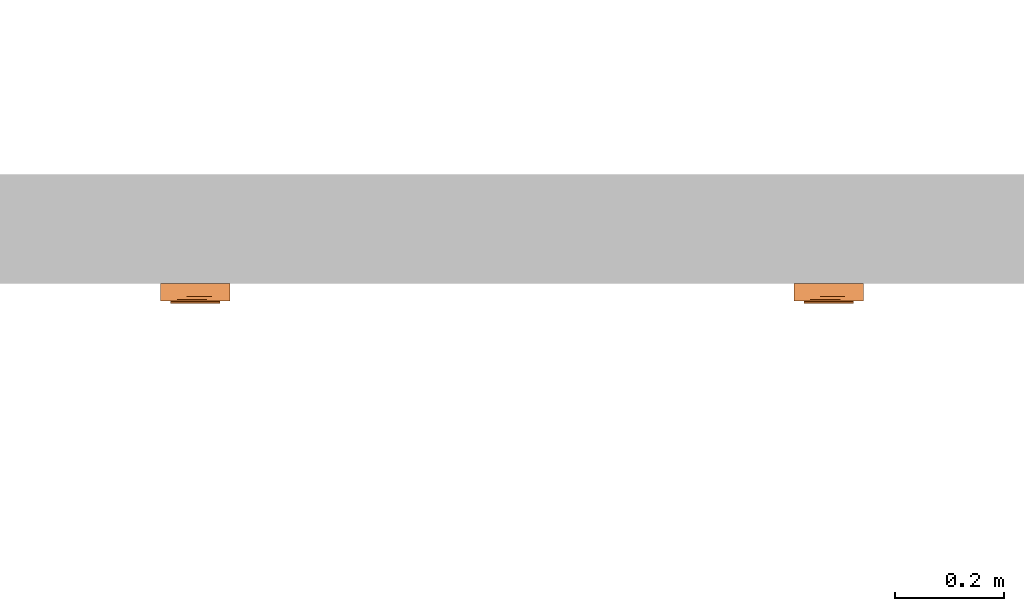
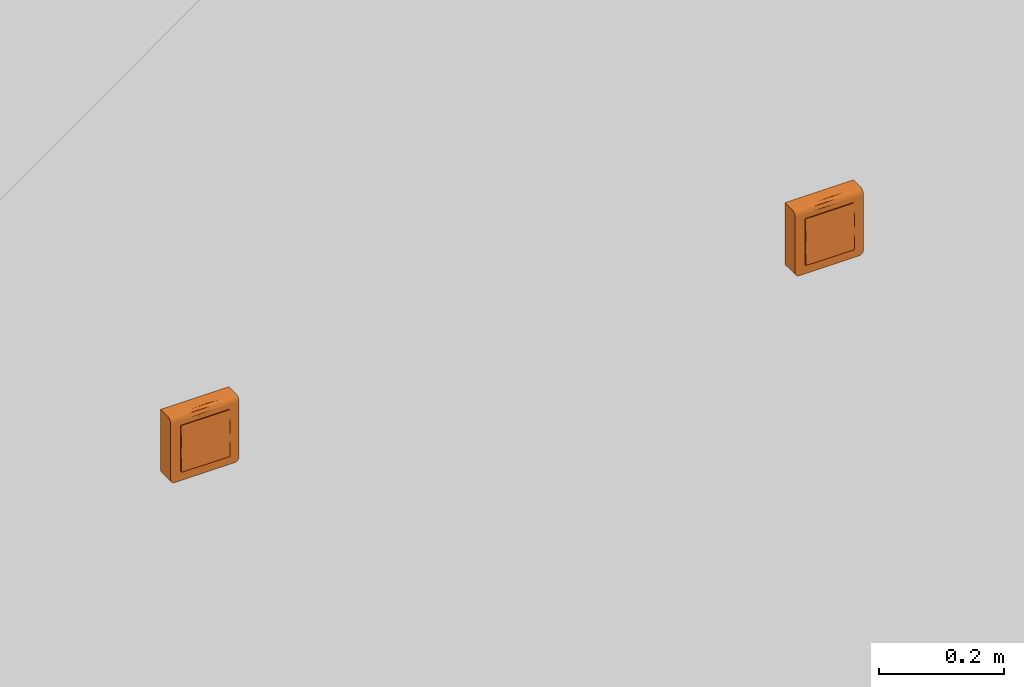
# One storey, part 168 of 197: 2 proxies.
"""IFC2X3 building model written with IfcOpenShell, lengths in metres."""

from ifc_helpers import new_model, entity, si_unit, converted_unit, direction, frame, origin, place, context, subcontext, project, spatial, faceted_brep, source, transform, mapped, material, material_list, type_object, type_shapes, element, save


model = new_model("IFC2X3")

# Units and contexts
model_context = context("Model", 3, precision=1e-05, world=origin(), true_north=direction((6.123031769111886e-17, 1.0)))
body_context = subcontext(model_context, "Body", "Model", "MODEL_VIEW")
ifc_project = project(units=[si_unit("LENGTHUNIT", "METRE"), converted_unit("PLANEANGLEUNIT", "DEGREE", entity("IfcPlaneAngleMeasure", 0.017453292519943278), si_unit("PLANEANGLEUNIT", "RADIAN"), dimensions=[0, 0, 0, 0, 0, 0, 0]), si_unit("AREAUNIT", "SQUARE_METRE")], contexts=[model_context])

# Site, building, storey
site_placement = place(None, origin())
site = spatial("IfcSite", under=ifc_project, at=site_placement, Name="Default", CompositionType="ELEMENT")
building_placement = place(site_placement, origin())
building = spatial("IfcBuilding", under=site, at=building_placement, CompositionType="ELEMENT")
storey_placement = place(building_placement, origin())
storey = spatial("IfcBuildingStorey", under=building, at=storey_placement, Name="Niveau 0", CompositionType="ELEMENT", Elevation=0.0)

# Proxies
ifc_material_1 = material(Name="BETCE-CADRE-BLANC")
ifc_material_2 = material(Name="BETCE-DOIGT-BLANC")
ifc_material_3 = material(Name="BETCE-ENJOLIVEUR-BLANC")
ifc_material_list = material_list([ifc_material_1, ifc_material_2, ifc_material_3])
building_element_proxy_type_1 = type_object("IfcBuildingElementProxyType", Name="Tableau commande 2x4 modules saillie:6 BP + 2 VV", PredefinedType="NOTDEFINED", material=ifc_material_list)
shared_shape_1 = source(origin(), body_context, "Body", "Brep", [
    faceted_brep([(0.06349999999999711, -0.022999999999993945, 0.0635), (-0.06350000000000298, -0.022999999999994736, 0.0635), (-0.06350000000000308, -0.022999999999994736, -0.055499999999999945), (-0.06322740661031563, -0.022999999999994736, -0.05757055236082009), (-0.06242820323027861, -0.02299999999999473, -0.059499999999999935), (-0.06115685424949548, -0.022999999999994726, -0.06115685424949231), (-0.05950000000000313, -0.022999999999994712, -0.06242820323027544), (-0.05757055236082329, -0.0229999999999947, -0.06322740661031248), (-0.05550000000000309, -0.022999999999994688, -0.06350000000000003), (0.055499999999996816, -0.022999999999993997, -0.0635000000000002), (0.057570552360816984, -0.022999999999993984, -0.06322740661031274), (0.05949999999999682, -0.022999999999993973, -0.062428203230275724), (0.06115685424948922, -0.022999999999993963, -0.061156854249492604), (0.062428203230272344, -0.022999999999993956, -0.05950000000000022), (0.0632274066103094, -0.022999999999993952, -0.0575705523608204), (0.06349999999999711, -0.022999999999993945, -0.05550000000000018), (-0.05550000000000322, 0.0, -0.06349999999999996), (-0.05757055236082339, 0.0, -0.06322740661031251), (-0.05950000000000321, 0.0, -0.062428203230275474), (-0.06115685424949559, 0.0, -0.06115685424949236), (-0.06242820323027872, 0.0, -0.05949999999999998), (-0.06322740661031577, 0.0, -0.05757055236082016), (-0.06350000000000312, 0.0, -0.055499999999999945), (-0.06350000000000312, 0.0, 0.0635), (0.06349999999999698, 0.0, 0.0635), (0.06349999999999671, 0.0, -0.05550000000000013), (0.06322740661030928, 0.0, -0.0575705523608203), (0.06242820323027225, 0.0, -0.05950000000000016), (0.06115685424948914, 0.0, -0.061156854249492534), (0.059499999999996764, 0.0, -0.062428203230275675), (0.05757055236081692, 0.0, -0.06322740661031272), (0.055499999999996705, 0.0, -0.0635)], [[[0, 1, 2, 3, 4, 5, 6, 7, 8, 9, 10, 11, 12, 13, 14, 15]], [[16, 17, 18, 19, 20, 21, 22, 23, 24, 25, 26, 27, 28, 29, 30, 31]], [[2, 1, 23, 22]], [[9, 8, 16, 31]], [[0, 15, 25, 24]], [[1, 0, 24, 23]], [[25, 15, 14, 26]], [[26, 14, 13, 27]], [[27, 13, 12, 28]], [[29, 11, 10, 30]], [[30, 10, 9, 31]], [[28, 12, 11, 29]], [[17, 16, 8, 7]], [[18, 17, 7, 6]], [[19, 18, 6, 5]], [[20, 19, 5, 4]], [[21, 20, 4, 3]], [[22, 21, 3, 2]]]),
    faceted_brep([(0.022499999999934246, -0.022999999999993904, -0.045000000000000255), (0.022499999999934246, -0.022999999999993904, 0.0), (0.04499999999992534, -0.022999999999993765, 0.0), (0.04499999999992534, -0.022999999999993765, -0.045000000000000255), (0.022499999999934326, -0.03574999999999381, -0.045000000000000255), (0.02249999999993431, -0.033499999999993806, 0.0), (0.044999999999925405, -0.03349999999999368, 0.0), (0.04499999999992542, -0.03574999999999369, -0.045000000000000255)], [[[0, 1, 2, 3]], [[1, 0, 4, 5]], [[2, 1, 5, 6]], [[3, 2, 6, 7]], [[0, 3, 7, 4]], [[5, 4, 7, 6]]]),
    faceted_brep([(0.0, -0.022999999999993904, -0.04500000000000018), (0.0, -0.022999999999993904, 0.0), (0.02249999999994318, -0.022999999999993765, 0.0), (0.02249999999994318, -0.022999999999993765, -0.04500000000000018), (0.0, -0.03574999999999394, -0.04500000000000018), (0.0, -0.03349999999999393, 0.0), (0.022499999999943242, -0.033499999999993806, 0.0), (0.02249999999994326, -0.03574999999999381, -0.04500000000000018)], [[[0, 1, 2, 3]], [[1, 0, 4, 5]], [[2, 1, 5, 6]], [[3, 2, 6, 7]], [[0, 3, 7, 4]], [[5, 4, 7, 6]]]),
    faceted_brep([(-0.02250000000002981, -0.022999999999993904, -0.0450000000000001), (-0.02250000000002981, -0.022999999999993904, 0.0), (0.0, -0.022999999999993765, 0.0), (0.0, -0.022999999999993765, -0.0450000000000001), (-0.02250000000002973, -0.03574999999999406, -0.0450000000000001), (-0.022500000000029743, -0.03349999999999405, 0.0), (0.0, -0.033499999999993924, 0.0), (0.0, -0.03574999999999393, -0.0450000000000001)], [[[0, 1, 2, 3]], [[1, 0, 4, 5]], [[2, 1, 5, 6]], [[3, 2, 6, 7]], [[0, 3, 7, 4]], [[5, 4, 7, 6]]]),
    faceted_brep([(-0.04500000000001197, -0.022999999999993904, -0.045000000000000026), (-0.04500000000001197, -0.022999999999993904, 0.0), (-0.022500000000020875, -0.022999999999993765, 0.0), (-0.022500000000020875, -0.022999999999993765, -0.045000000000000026), (-0.04500000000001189, -0.03574999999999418, -0.045000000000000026), (-0.0450000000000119, -0.03349999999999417, 0.0), (-0.02250000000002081, -0.03349999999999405, 0.0), (-0.022500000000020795, -0.03574999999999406, -0.045000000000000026)], [[[0, 1, 2, 3]], [[1, 0, 4, 5]], [[2, 1, 5, 6]], [[3, 2, 6, 7]], [[0, 3, 7, 4]], [[5, 4, 7, 6]]]),
    faceted_brep([(0.02249999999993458, -0.03349999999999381, 0.04499999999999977), (0.022499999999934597, -0.03574999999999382, 0.0), (0.04499999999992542, -0.0357499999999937, 0.0), (0.044999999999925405, -0.03349999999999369, 0.04499999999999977), (0.022499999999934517, -0.022999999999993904, 0.0), (0.022499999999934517, -0.022999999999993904, 0.04499999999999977), (0.04499999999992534, -0.022999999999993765, 0.04499999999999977), (0.04499999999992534, -0.022999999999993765, 0.0)], [[[0, 1, 2, 3]], [[4, 5, 6, 7]], [[5, 4, 1, 0]], [[6, 5, 0, 3]], [[7, 6, 3, 2]], [[4, 7, 2, 1]]]),
    faceted_brep([(0.0, -0.03349999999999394, 0.044999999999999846), (0.0, -0.035749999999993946, 0.0), (0.02249999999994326, -0.03574999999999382, 0.0), (0.022499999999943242, -0.03349999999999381, 0.044999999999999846), (0.0, -0.022999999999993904, 0.0), (0.0, -0.022999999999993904, 0.044999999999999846), (0.02249999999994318, -0.022999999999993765, 0.04499999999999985), (0.02249999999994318, -0.022999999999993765, 0.0)], [[[0, 1, 2, 3]], [[4, 5, 6, 7]], [[5, 4, 1, 0]], [[6, 5, 0, 3]], [[7, 6, 3, 2]], [[4, 7, 2, 1]]]),
    faceted_brep([(-0.022500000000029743, -0.03349999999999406, 0.04499999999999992), (-0.02250000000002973, -0.03574999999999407, 0.0), (0.0, -0.03574999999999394, 0.0), (0.0, -0.03349999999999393, 0.04499999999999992), (-0.02250000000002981, -0.022999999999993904, 0.0), (-0.02250000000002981, -0.022999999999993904, 0.04499999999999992), (0.0, -0.022999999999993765, 0.04499999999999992), (0.0, -0.022999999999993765, 0.0)], [[[0, 1, 2, 3]], [[4, 5, 6, 7]], [[5, 4, 1, 0]], [[6, 5, 0, 3]], [[7, 6, 3, 2]], [[4, 7, 2, 1]]]),
    faceted_brep([(-0.04500000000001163, -0.03349999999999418, 0.045), (-0.045000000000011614, -0.03574999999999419, 0.0), (-0.022500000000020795, -0.035749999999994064, 0.0), (-0.02250000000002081, -0.03349999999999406, 0.045), (-0.0450000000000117, -0.022999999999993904, 0.0), (-0.0450000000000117, -0.022999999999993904, 0.045), (-0.022500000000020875, -0.022999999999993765, 0.045000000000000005), (-0.022500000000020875, -0.022999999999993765, 0.0)], [[[0, 1, 2, 3]], [[4, 5, 6, 7]], [[5, 4, 1, 0]], [[6, 5, 0, 3]], [[7, 6, 3, 2]], [[4, 7, 2, 1]]]),
    faceted_brep([(0.06349999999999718, -0.03199999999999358, -0.055500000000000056), (0.063499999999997, -0.03199999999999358, 0.05450000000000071), (0.04499999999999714, -0.03199999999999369, -0.045000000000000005), (0.05549999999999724, -0.03199999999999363, -0.06350000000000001), (0.057570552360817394, -0.03199999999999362, -0.06322740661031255), (0.06322740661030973, -0.03199999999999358, -0.05757055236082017), (0.04499999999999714, -0.03199999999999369, 0.045), (-0.04500000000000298, -0.031999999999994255, 0.045000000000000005), (-0.011124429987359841, -0.03199999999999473, 0.054500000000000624), (-0.06350000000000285, -0.03199999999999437, 0.05450000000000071), (-0.04500000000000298, -0.031999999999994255, -0.045000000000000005), (-0.06350000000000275, -0.03199999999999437, -0.05550000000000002), (-0.05550000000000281, -0.03199999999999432, -0.06350000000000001), (-0.05757055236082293, -0.03199999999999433, -0.06322740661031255), (-0.06322740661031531, -0.031999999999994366, -0.05757055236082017), (-0.05950000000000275, -0.031999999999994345, -0.062428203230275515), (-0.06242820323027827, -0.03199999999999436, -0.05950000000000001), (-0.06115685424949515, -0.03199999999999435, -0.06115685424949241), (0.05949999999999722, -0.0319999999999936, -0.062428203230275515), (0.062428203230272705, -0.03199999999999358, -0.05949999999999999), (0.06115685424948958, -0.031999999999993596, -0.061156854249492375), (-0.06350000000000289, -0.02299999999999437, -0.05550000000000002), (-0.06350000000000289, -0.02299999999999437, 0.06350000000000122), (-0.04500000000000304, -0.02299999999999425, 0.045000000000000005), (-0.04500000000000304, -0.02299999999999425, -0.045000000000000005), (-0.05550000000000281, -0.02299999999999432, -0.06350000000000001), (-0.06322740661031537, -0.022999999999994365, -0.05757055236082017), (0.04499999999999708, -0.022999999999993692, 0.045000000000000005), (0.011124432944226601, -0.022999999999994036, 0.06350000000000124), (0.06349999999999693, -0.022999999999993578, 0.0635), (0.06349999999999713, -0.022999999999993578, -0.05550000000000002), (0.04499999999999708, -0.022999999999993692, -0.045000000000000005), (0.05549999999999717, -0.02299999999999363, -0.06350000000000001), (0.06322740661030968, -0.022999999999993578, -0.05757055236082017), (0.05757055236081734, -0.022999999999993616, -0.06322740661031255), (0.06242820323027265, -0.022999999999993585, -0.05949999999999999), (0.05949999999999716, -0.022999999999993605, -0.062428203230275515), (0.06115685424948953, -0.02299999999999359, -0.061156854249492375), (-0.05757055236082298, -0.02299999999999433, -0.06322740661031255), (-0.062428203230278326, -0.022999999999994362, -0.05950000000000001), (-0.05950000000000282, -0.022999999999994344, -0.062428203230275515), (-0.0611568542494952, -0.02299999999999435, -0.06115685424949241), (0.06349999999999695, -0.025329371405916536, 0.06319333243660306), (0.06349999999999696, -0.02749999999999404, 0.06229422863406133), (0.06349999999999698, -0.029363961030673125, 0.060863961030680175), (0.06349999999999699, -0.03079422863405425, 0.05900000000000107), (0.06349999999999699, -0.03169333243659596, 0.05682937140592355), (-0.06350000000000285, -0.03169333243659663, 0.0568293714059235), (-0.06350000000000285, -0.030794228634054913, 0.059000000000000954), (-0.06350000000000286, -0.029363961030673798, 0.06086396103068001), (-0.06350000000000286, -0.027499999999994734, 0.062294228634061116), (-0.06350000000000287, -0.025329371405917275, 0.06319333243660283), (-0.010857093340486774, -0.029120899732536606, 0.06109807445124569)], [[[0, 1, 2]], [[3, 0, 2]], [[0, 3, 4]], [[5, 0, 4]], [[2, 1, 6]], [[1, 7, 6]], [[7, 1, 8]], [[7, 8, 9]], [[10, 7, 9]], [[11, 10, 9]], [[12, 10, 11]], [[12, 11, 13]], [[13, 11, 14]], [[15, 13, 14]], [[16, 15, 14]], [[15, 16, 17]], [[10, 12, 3]], [[2, 10, 3]], [[5, 4, 18]], [[5, 18, 19]], [[20, 19, 18]], [[21, 22, 23]], [[24, 21, 23]], [[25, 21, 24]], [[26, 21, 25]], [[22, 27, 23]], [[27, 22, 28]], [[27, 28, 29]], [[30, 27, 29]], [[31, 27, 30]], [[32, 31, 30]], [[32, 30, 33]], [[32, 33, 34]], [[33, 35, 34]], [[35, 36, 34]], [[36, 35, 37]], [[31, 32, 25]], [[26, 25, 38]], [[24, 31, 25]], [[39, 26, 38]], [[39, 38, 40]], [[41, 39, 40]], [[1, 0, 30, 29, 42, 43, 44, 45, 46]], [[33, 30, 0, 5]], [[35, 33, 5, 19]], [[37, 35, 19, 20]], [[36, 37, 20, 18]], [[34, 36, 18, 4]], [[32, 34, 4, 3]], [[25, 32, 3, 12]], [[38, 25, 12, 13]], [[40, 38, 13, 15]], [[41, 40, 15, 17]], [[39, 41, 17, 16]], [[26, 39, 16, 14]], [[21, 26, 14, 11]], [[22, 21, 11, 9, 47, 48, 49, 50, 51]], [[24, 23, 7, 10]], [[31, 24, 10, 2]], [[27, 31, 2, 6]], [[23, 27, 6, 7]], [[52, 8, 45]], [[47, 9, 8]], [[1, 46, 8]], [[44, 52, 45]], [[46, 45, 8]], [[50, 52, 51]], [[48, 47, 8]], [[28, 52, 43]], [[48, 52, 49]], [[42, 29, 28]], [[28, 22, 51]], [[48, 8, 52]], [[28, 43, 42]], [[44, 43, 52]], [[52, 50, 49]], [[52, 28, 51]]]),
])
type_shapes(building_element_proxy_type_1, [shared_shape_1])
proxy_1_placement = place(storey_placement, frame((-348.70777966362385, 116.01635778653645, 1.1)))
element("IfcBuildingElementProxy", 1, at=proxy_1_placement, inside=storey, type_object=building_element_proxy_type_1, material=ifc_material_list, Name="Tableau commande 2x4 modules saillie:6 BP + 2 VV", ObjectType="Tableau commande 2x4 modules saillie:6 BP + 2 VV", context=body_context, shape_type="MappedRepresentation", body=[
    mapped(shared_shape_1, transform((0.0, 0.0, 0.0), scale=1.0)),
])
building_element_proxy_type_2 = type_object("IfcBuildingElementProxyType", Name="Tableau commande 2x4 modules saillie:7 BP + 1 VV", PredefinedType="NOTDEFINED", material=ifc_material_list)
shared_shape_2 = source(origin(), body_context, "Body", "Brep", [
    faceted_brep([(0.06349999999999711, -0.022999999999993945, 0.0635), (-0.06350000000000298, -0.022999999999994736, 0.0635), (-0.06350000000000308, -0.022999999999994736, -0.055499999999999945), (-0.06322740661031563, -0.022999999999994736, -0.05757055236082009), (-0.06242820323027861, -0.02299999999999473, -0.059499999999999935), (-0.06115685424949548, -0.022999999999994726, -0.06115685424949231), (-0.05950000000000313, -0.022999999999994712, -0.06242820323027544), (-0.05757055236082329, -0.0229999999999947, -0.06322740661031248), (-0.05550000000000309, -0.022999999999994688, -0.06350000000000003), (0.055499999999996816, -0.022999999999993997, -0.0635000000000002), (0.057570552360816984, -0.022999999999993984, -0.06322740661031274), (0.05949999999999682, -0.022999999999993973, -0.062428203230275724), (0.06115685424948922, -0.022999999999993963, -0.061156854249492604), (0.062428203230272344, -0.022999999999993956, -0.05950000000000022), (0.0632274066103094, -0.022999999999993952, -0.0575705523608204), (0.06349999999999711, -0.022999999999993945, -0.05550000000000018), (-0.05550000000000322, 0.0, -0.06349999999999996), (-0.05757055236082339, 0.0, -0.06322740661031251), (-0.05950000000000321, 0.0, -0.062428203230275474), (-0.06115685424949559, 0.0, -0.06115685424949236), (-0.06242820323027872, 0.0, -0.05949999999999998), (-0.06322740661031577, 0.0, -0.05757055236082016), (-0.06350000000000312, 0.0, -0.055499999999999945), (-0.06350000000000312, 0.0, 0.0635), (0.06349999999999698, 0.0, 0.0635), (0.06349999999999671, 0.0, -0.05550000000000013), (0.06322740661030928, 0.0, -0.0575705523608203), (0.06242820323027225, 0.0, -0.05950000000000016), (0.06115685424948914, 0.0, -0.061156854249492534), (0.059499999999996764, 0.0, -0.062428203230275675), (0.05757055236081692, 0.0, -0.06322740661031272), (0.055499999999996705, 0.0, -0.0635)], [[[0, 1, 2, 3, 4, 5, 6, 7, 8, 9, 10, 11, 12, 13, 14, 15]], [[16, 17, 18, 19, 20, 21, 22, 23, 24, 25, 26, 27, 28, 29, 30, 31]], [[2, 1, 23, 22]], [[9, 8, 16, 31]], [[0, 15, 25, 24]], [[1, 0, 24, 23]], [[25, 15, 14, 26]], [[26, 14, 13, 27]], [[27, 13, 12, 28]], [[29, 11, 10, 30]], [[30, 10, 9, 31]], [[28, 12, 11, 29]], [[17, 16, 8, 7]], [[18, 17, 7, 6]], [[19, 18, 6, 5]], [[20, 19, 5, 4]], [[21, 20, 4, 3]], [[22, 21, 3, 2]]]),
    faceted_brep([(0.022499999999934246, -0.022999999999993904, -0.045000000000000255), (0.022499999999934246, -0.022999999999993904, 0.0), (0.04499999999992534, -0.022999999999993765, 0.0), (0.04499999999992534, -0.022999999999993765, -0.045000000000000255), (0.022499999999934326, -0.03574999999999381, -0.045000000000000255), (0.02249999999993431, -0.033499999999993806, 0.0), (0.044999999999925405, -0.03349999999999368, 0.0), (0.04499999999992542, -0.03574999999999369, -0.045000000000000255)], [[[0, 1, 2, 3]], [[1, 0, 4, 5]], [[2, 1, 5, 6]], [[3, 2, 6, 7]], [[0, 3, 7, 4]], [[5, 4, 7, 6]]]),
    faceted_brep([(0.0, -0.022999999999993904, -0.04500000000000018), (0.0, -0.022999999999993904, 0.0), (0.02249999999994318, -0.022999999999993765, 0.0), (0.02249999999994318, -0.022999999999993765, -0.04500000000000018), (0.0, -0.03574999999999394, -0.04500000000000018), (0.0, -0.03349999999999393, 0.0), (0.022499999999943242, -0.033499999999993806, 0.0), (0.02249999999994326, -0.03574999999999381, -0.04500000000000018)], [[[0, 1, 2, 3]], [[1, 0, 4, 5]], [[2, 1, 5, 6]], [[3, 2, 6, 7]], [[0, 3, 7, 4]], [[5, 4, 7, 6]]]),
    faceted_brep([(-0.02250000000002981, -0.022999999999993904, -0.0450000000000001), (-0.02250000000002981, -0.022999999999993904, 0.0), (0.0, -0.022999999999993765, 0.0), (0.0, -0.022999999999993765, -0.0450000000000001), (-0.02250000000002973, -0.03574999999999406, -0.0450000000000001), (-0.022500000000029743, -0.03349999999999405, 0.0), (0.0, -0.033499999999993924, 0.0), (0.0, -0.03574999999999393, -0.0450000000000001)], [[[0, 1, 2, 3]], [[1, 0, 4, 5]], [[2, 1, 5, 6]], [[3, 2, 6, 7]], [[0, 3, 7, 4]], [[5, 4, 7, 6]]]),
    faceted_brep([(-0.04500000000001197, -0.022999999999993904, -0.045000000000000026), (-0.04500000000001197, -0.022999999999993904, 0.0), (-0.022500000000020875, -0.022999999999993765, 0.0), (-0.022500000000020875, -0.022999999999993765, -0.045000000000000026), (-0.04500000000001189, -0.03574999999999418, -0.045000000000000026), (-0.0450000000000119, -0.03349999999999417, 0.0), (-0.02250000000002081, -0.03349999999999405, 0.0), (-0.022500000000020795, -0.03574999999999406, -0.045000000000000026)], [[[0, 1, 2, 3]], [[1, 0, 4, 5]], [[2, 1, 5, 6]], [[3, 2, 6, 7]], [[0, 3, 7, 4]], [[5, 4, 7, 6]]]),
    faceted_brep([(0.02249999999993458, -0.03349999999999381, 0.04499999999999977), (0.022499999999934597, -0.03574999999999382, 0.0), (0.04499999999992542, -0.0357499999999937, 0.0), (0.044999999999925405, -0.03349999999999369, 0.04499999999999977), (0.022499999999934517, -0.022999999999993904, 0.0), (0.022499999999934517, -0.022999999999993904, 0.04499999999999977), (0.04499999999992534, -0.022999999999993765, 0.04499999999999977), (0.04499999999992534, -0.022999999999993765, 0.0)], [[[0, 1, 2, 3]], [[4, 5, 6, 7]], [[5, 4, 1, 0]], [[6, 5, 0, 3]], [[7, 6, 3, 2]], [[4, 7, 2, 1]]]),
    faceted_brep([(0.0, -0.03349999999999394, 0.044999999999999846), (0.0, -0.035749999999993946, 0.0), (0.02249999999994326, -0.03574999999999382, 0.0), (0.022499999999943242, -0.03349999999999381, 0.044999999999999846), (0.0, -0.022999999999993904, 0.0), (0.0, -0.022999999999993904, 0.044999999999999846), (0.02249999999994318, -0.022999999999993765, 0.04499999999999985), (0.02249999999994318, -0.022999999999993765, 0.0)], [[[0, 1, 2, 3]], [[4, 5, 6, 7]], [[5, 4, 1, 0]], [[6, 5, 0, 3]], [[7, 6, 3, 2]], [[4, 7, 2, 1]]]),
    faceted_brep([(-0.022500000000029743, -0.03349999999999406, 0.04499999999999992), (-0.02250000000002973, -0.03574999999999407, 0.0), (0.0, -0.03574999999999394, 0.0), (0.0, -0.03349999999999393, 0.04499999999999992), (-0.02250000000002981, -0.022999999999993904, 0.0), (-0.02250000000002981, -0.022999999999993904, 0.04499999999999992), (0.0, -0.022999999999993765, 0.04499999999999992), (0.0, -0.022999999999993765, 0.0)], [[[0, 1, 2, 3]], [[4, 5, 6, 7]], [[5, 4, 1, 0]], [[6, 5, 0, 3]], [[7, 6, 3, 2]], [[4, 7, 2, 1]]]),
    faceted_brep([(-0.04500000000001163, -0.03349999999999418, 0.045), (-0.045000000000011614, -0.03574999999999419, 0.0), (-0.022500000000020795, -0.035749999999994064, 0.0), (-0.02250000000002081, -0.03349999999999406, 0.045), (-0.0450000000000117, -0.022999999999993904, 0.0), (-0.0450000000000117, -0.022999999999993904, 0.045), (-0.022500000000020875, -0.022999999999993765, 0.045000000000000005), (-0.022500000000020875, -0.022999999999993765, 0.0)], [[[0, 1, 2, 3]], [[4, 5, 6, 7]], [[5, 4, 1, 0]], [[6, 5, 0, 3]], [[7, 6, 3, 2]], [[4, 7, 2, 1]]]),
    faceted_brep([(0.06349999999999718, -0.03199999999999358, -0.055500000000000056), (0.063499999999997, -0.03199999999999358, 0.05450000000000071), (0.04499999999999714, -0.03199999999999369, -0.045000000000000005), (0.05549999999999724, -0.03199999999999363, -0.06350000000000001), (0.057570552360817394, -0.03199999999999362, -0.06322740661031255), (0.06322740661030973, -0.03199999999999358, -0.05757055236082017), (0.04499999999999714, -0.03199999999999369, 0.045), (-0.04500000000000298, -0.031999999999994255, 0.045000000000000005), (-0.011124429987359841, -0.03199999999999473, 0.054500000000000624), (-0.06350000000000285, -0.03199999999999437, 0.05450000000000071), (-0.04500000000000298, -0.031999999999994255, -0.045000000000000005), (-0.06350000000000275, -0.03199999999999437, -0.05550000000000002), (-0.05550000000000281, -0.03199999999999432, -0.06350000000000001), (-0.05757055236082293, -0.03199999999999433, -0.06322740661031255), (-0.06322740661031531, -0.031999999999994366, -0.05757055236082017), (-0.05950000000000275, -0.031999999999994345, -0.062428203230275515), (-0.06242820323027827, -0.03199999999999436, -0.05950000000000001), (-0.06115685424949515, -0.03199999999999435, -0.06115685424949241), (0.05949999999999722, -0.0319999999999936, -0.062428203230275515), (0.062428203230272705, -0.03199999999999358, -0.05949999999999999), (0.06115685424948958, -0.031999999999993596, -0.061156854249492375), (-0.06350000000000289, -0.02299999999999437, -0.05550000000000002), (-0.06350000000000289, -0.02299999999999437, 0.06350000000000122), (-0.04500000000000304, -0.02299999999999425, 0.045000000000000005), (-0.04500000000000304, -0.02299999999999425, -0.045000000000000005), (-0.05550000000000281, -0.02299999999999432, -0.06350000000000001), (-0.06322740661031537, -0.022999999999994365, -0.05757055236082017), (0.04499999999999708, -0.022999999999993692, 0.045000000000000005), (0.011124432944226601, -0.022999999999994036, 0.06350000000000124), (0.06349999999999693, -0.022999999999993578, 0.0635), (0.06349999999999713, -0.022999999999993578, -0.05550000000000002), (0.04499999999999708, -0.022999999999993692, -0.045000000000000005), (0.05549999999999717, -0.02299999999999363, -0.06350000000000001), (0.06322740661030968, -0.022999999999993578, -0.05757055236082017), (0.05757055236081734, -0.022999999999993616, -0.06322740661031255), (0.06242820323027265, -0.022999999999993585, -0.05949999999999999), (0.05949999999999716, -0.022999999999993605, -0.062428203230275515), (0.06115685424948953, -0.02299999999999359, -0.061156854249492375), (-0.05757055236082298, -0.02299999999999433, -0.06322740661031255), (-0.062428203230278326, -0.022999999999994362, -0.05950000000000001), (-0.05950000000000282, -0.022999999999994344, -0.062428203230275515), (-0.0611568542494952, -0.02299999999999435, -0.06115685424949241), (0.06349999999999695, -0.025329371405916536, 0.06319333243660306), (0.06349999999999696, -0.02749999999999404, 0.06229422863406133), (0.06349999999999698, -0.029363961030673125, 0.060863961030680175), (0.06349999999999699, -0.03079422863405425, 0.05900000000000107), (0.06349999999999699, -0.03169333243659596, 0.05682937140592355), (-0.06350000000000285, -0.03169333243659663, 0.0568293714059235), (-0.06350000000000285, -0.030794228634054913, 0.059000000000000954), (-0.06350000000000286, -0.029363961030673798, 0.06086396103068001), (-0.06350000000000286, -0.027499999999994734, 0.062294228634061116), (-0.06350000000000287, -0.025329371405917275, 0.06319333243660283), (-0.010857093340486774, -0.029120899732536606, 0.06109807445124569)], [[[0, 1, 2]], [[3, 0, 2]], [[0, 3, 4]], [[5, 0, 4]], [[2, 1, 6]], [[1, 7, 6]], [[7, 1, 8]], [[7, 8, 9]], [[10, 7, 9]], [[11, 10, 9]], [[12, 10, 11]], [[12, 11, 13]], [[13, 11, 14]], [[15, 13, 14]], [[16, 15, 14]], [[15, 16, 17]], [[10, 12, 3]], [[2, 10, 3]], [[5, 4, 18]], [[5, 18, 19]], [[20, 19, 18]], [[21, 22, 23]], [[24, 21, 23]], [[25, 21, 24]], [[26, 21, 25]], [[22, 27, 23]], [[27, 22, 28]], [[27, 28, 29]], [[30, 27, 29]], [[31, 27, 30]], [[32, 31, 30]], [[32, 30, 33]], [[32, 33, 34]], [[33, 35, 34]], [[35, 36, 34]], [[36, 35, 37]], [[31, 32, 25]], [[26, 25, 38]], [[24, 31, 25]], [[39, 26, 38]], [[39, 38, 40]], [[41, 39, 40]], [[1, 0, 30, 29, 42, 43, 44, 45, 46]], [[33, 30, 0, 5]], [[35, 33, 5, 19]], [[37, 35, 19, 20]], [[36, 37, 20, 18]], [[34, 36, 18, 4]], [[32, 34, 4, 3]], [[25, 32, 3, 12]], [[38, 25, 12, 13]], [[40, 38, 13, 15]], [[41, 40, 15, 17]], [[39, 41, 17, 16]], [[26, 39, 16, 14]], [[21, 26, 14, 11]], [[22, 21, 11, 9, 47, 48, 49, 50, 51]], [[24, 23, 7, 10]], [[31, 24, 10, 2]], [[27, 31, 2, 6]], [[23, 27, 6, 7]], [[52, 8, 45]], [[47, 9, 8]], [[1, 46, 8]], [[44, 52, 45]], [[46, 45, 8]], [[50, 52, 51]], [[48, 47, 8]], [[28, 52, 43]], [[48, 52, 49]], [[42, 29, 28]], [[28, 22, 51]], [[48, 8, 52]], [[28, 43, 42]], [[44, 43, 52]], [[52, 50, 49]], [[52, 28, 51]]]),
])
type_shapes(building_element_proxy_type_2, [shared_shape_2])
proxy_2_placement = place(storey_placement, frame((-347.54977966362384, 116.01635778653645, 1.1)))
element("IfcBuildingElementProxy", 2, at=proxy_2_placement, inside=storey, type_object=building_element_proxy_type_2, material=ifc_material_list, Name="Tableau commande 2x4 modules saillie:7 BP + 1 VV", ObjectType="Tableau commande 2x4 modules saillie:7 BP + 1 VV", context=body_context, shape_type="MappedRepresentation", body=[
    mapped(shared_shape_2, transform((0.0, 0.0, 0.0), scale=1.0)),
])

save(model, "model.ifc")
